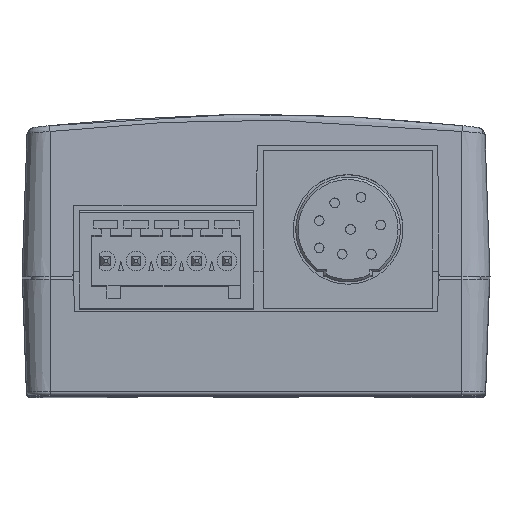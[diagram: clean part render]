
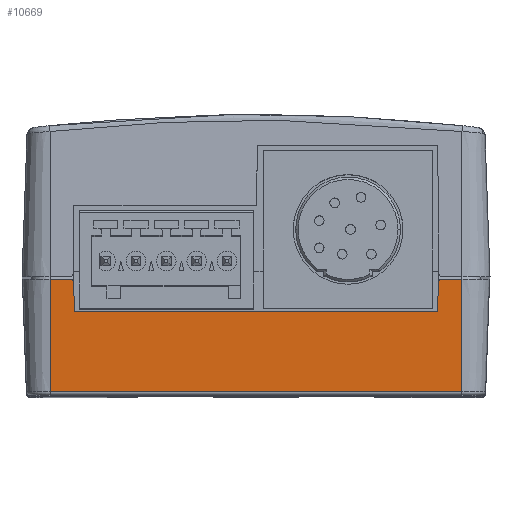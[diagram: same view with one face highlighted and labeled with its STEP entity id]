
A CAD part, top view. The second image highlights one B-rep face of the part: STEP entity #10669.
In plain terms, the highlighted planar face has unit normal (0, -0.035, 0.999) as drawn and (0, -0.035, -0.999) by its records, which use the part's own axes.
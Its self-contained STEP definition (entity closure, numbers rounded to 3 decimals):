
#1119 = EDGE_CURVE ( 'NONE', #12969, #44222, #34405, .T. ) ;
#1789 = CARTESIAN_POINT ( 'NONE',  ( -17., -0.6, -49.979 ) ) ;
#2781 = CARTESIAN_POINT ( 'NONE',  ( -17., 0., -50. ) ) ;
#4231 = VERTEX_POINT ( 'NONE', #21489 ) ;
#4870 = ORIENTED_EDGE ( 'NONE', *, *, #14160, .F. ) ;
#5945 = DIRECTION ( 'NONE',  ( -1., 0., 0. ) ) ;
#6438 = CARTESIAN_POINT ( 'NONE',  ( 0., -0.6, -49.979 ) ) ;
#7473 = LINE ( 'NONE', #31027, #9142 ) ;
#7573 = CARTESIAN_POINT ( 'NONE',  ( 15.042, -0.895, -49.969 ) ) ;
#7917 = LINE ( 'NONE', #6438, #48975 ) ;
#7971 = EDGE_CURVE ( 'NONE', #58150, #4231, #40866, .T. ) ;
#8199 = ORIENTED_EDGE ( 'NONE', *, *, #25283, .T. ) ;
#8372 = CARTESIAN_POINT ( 'NONE',  ( -15., -3.3, -49.885 ) ) ;
#8710 = VECTOR ( 'NONE', #55628, 1000. ) ;
#9142 = VECTOR ( 'NONE', #26318, 1000. ) ;
#9633 = VERTEX_POINT ( 'NONE', #7573 ) ;
#10669 = ADVANCED_FACE ( 'NONE', ( #40901 ), #27642, .T. ) ;
#11183 = LINE ( 'NONE', #25786, #22124 ) ;
#11366 = CARTESIAN_POINT ( 'NONE',  ( -15.045, -0.721, -49.975 ) ) ;
#12795 = ORIENTED_EDGE ( 'NONE', *, *, #39988, .F. ) ;
#12969 = VERTEX_POINT ( 'NONE', #32125 ) ;
#12974 = LINE ( 'NONE', #34595, #26414 ) ;
#14160 = EDGE_CURVE ( 'NONE', #67764, #19177, #52510, .T. ) ;
#15240 = ORIENTED_EDGE ( 'NONE', *, *, #65500, .T. ) ;
#16017 = VECTOR ( 'NONE', #51021, 1000. ) ;
#17481 = ORIENTED_EDGE ( 'NONE', *, *, #67395, .T. ) ;
#18217 = DIRECTION ( 'NONE',  ( 0., -0.999, 0.035 ) ) ;
#18967 = LINE ( 'NONE', #8372, #36596 ) ;
#19177 = VERTEX_POINT ( 'NONE', #47198 ) ;
#19591 = ORIENTED_EDGE ( 'NONE', *, *, #7971, .T. ) ;
#19837 = VERTEX_POINT ( 'NONE', #55321 ) ;
#21489 = CARTESIAN_POINT ( 'NONE',  ( -15.042, -0.895, -49.969 ) ) ;
#22124 = VECTOR ( 'NONE', #68060, 1000. ) ;
#22946 = CARTESIAN_POINT ( 'NONE',  ( -17., -9.91, -49.654 ) ) ;
#24142 = EDGE_CURVE ( 'NONE', #19837, #12969, #40558, .T. ) ;
#25283 = EDGE_CURVE ( 'NONE', #30985, #9633, #11183, .T. ) ;
#25786 = CARTESIAN_POINT ( 'NONE',  ( 15., -3.296, -49.885 ) ) ;
#26125 = CARTESIAN_POINT ( 'NONE',  ( -15.342, -0.6, -49.979 ) ) ;
#26318 = DIRECTION ( 'NONE',  ( -0.017, 0.999, -0.035 ) ) ;
#26414 = VECTOR ( 'NONE', #18217, 1000. ) ;
#26754 = ORIENTED_EDGE ( 'NONE', *, *, #39496, .T. ) ;
#27642 = PLANE ( 'NONE',  #34207 ) ;
#28038 = EDGE_CURVE ( 'NONE', #44933, #4231, #7473, .T. ) ;
#28935 = CARTESIAN_POINT ( 'NONE',  ( 15., -3.3, -49.885 ) ) ;
#30985 = VERTEX_POINT ( 'NONE', #28935 ) ;
#31027 = CARTESIAN_POINT ( 'NONE',  ( -15.053, -0.262, -49.991 ) ) ;
#32125 = CARTESIAN_POINT ( 'NONE',  ( -17., -9.91, -49.654 ) ) ;
#32547 = DIRECTION ( 'NONE',  ( 0., 0.999, -0.035 ) ) ;
#33041 = EDGE_LOOP ( 'NONE', ( #26754, #46017, #44688, #12795, #19591, #54899, #15240, #8199, #17481, #4870 ) ) ;
#33556 = CARTESIAN_POINT ( 'NONE',  ( 15.169, -0.6, -49.979 ) ) ;
#33779 = CARTESIAN_POINT ( 'NONE',  ( 15.042, -0.895, -49.969 ) ) ;
#34207 = AXIS2_PLACEMENT_3D ( 'NONE', #54727, #64989, #32547 ) ;
#34243 = CARTESIAN_POINT ( 'NONE',  ( 15.342, -0.6, -49.979 ) ) ;
#34405 = LINE ( 'NONE', #2781, #16017 ) ;
#34595 = CARTESIAN_POINT ( 'NONE',  ( 17., 0., -50. ) ) ;
#34938 = VECTOR ( 'NONE', #5945, 1000. ) ;
#36596 = VECTOR ( 'NONE', #51206, 1000. ) ;
#39144 = CARTESIAN_POINT ( 'NONE',  ( 15.045, -0.721, -49.975 ) ) ;
#39496 = EDGE_CURVE ( 'NONE', #67764, #19837, #12974, .T. ) ;
#39988 = EDGE_CURVE ( 'NONE', #58150, #44222, #7917, .T. ) ;
#40558 = LINE ( 'NONE', #22946, #8710 ) ;
#40866 =( BOUNDED_CURVE ( )  B_SPLINE_CURVE ( 3, ( #26125, #59299, #11366, #48807 ),
 .UNSPECIFIED., .F., .F. ) 
 B_SPLINE_CURVE_WITH_KNOTS ( ( 4, 4 ),
 ( 3.142, 4.695 ),
 .UNSPECIFIED. ) 
 CURVE ( )  GEOMETRIC_REPRESENTATION_ITEM ( )  RATIONAL_B_SPLINE_CURVE ( ( 1., 0.809, 0.809, 1. ) ) 
 REPRESENTATION_ITEM ( '' )  );
#40901 = FACE_OUTER_BOUND ( 'NONE', #33041, .T. ) ;
#44222 = VERTEX_POINT ( 'NONE', #1789 ) ;
#44688 = ORIENTED_EDGE ( 'NONE', *, *, #1119, .T. ) ;
#44933 = VERTEX_POINT ( 'NONE', #53143 ) ;
#46017 = ORIENTED_EDGE ( 'NONE', *, *, #24142, .T. ) ;
#47198 = CARTESIAN_POINT ( 'NONE',  ( 15.342, -0.6, -49.979 ) ) ;
#48807 = CARTESIAN_POINT ( 'NONE',  ( -15.042, -0.895, -49.969 ) ) ;
#48907 = CARTESIAN_POINT ( 'NONE',  ( 17., -0.6, -49.979 ) ) ;
#48975 = VECTOR ( 'NONE', #59783, 1000. ) ;
#51021 = DIRECTION ( 'NONE',  ( 0., 0.999, -0.035 ) ) ;
#51206 = DIRECTION ( 'NONE',  ( 1., 0., 0. ) ) ;
#52342 =( BOUNDED_CURVE ( )  B_SPLINE_CURVE ( 3, ( #33779, #39144, #33556, #34243 ),
 .UNSPECIFIED., .F., .F. ) 
 B_SPLINE_CURVE_WITH_KNOTS ( ( 4, 4 ),
 ( 4.73, 6.283 ),
 .UNSPECIFIED. ) 
 CURVE ( )  GEOMETRIC_REPRESENTATION_ITEM ( )  RATIONAL_B_SPLINE_CURVE ( ( 1., 0.809, 0.809, 1. ) ) 
 REPRESENTATION_ITEM ( '' )  );
#52510 = LINE ( 'NONE', #58354, #34938 ) ;
#53143 = CARTESIAN_POINT ( 'NONE',  ( -15., -3.3, -49.885 ) ) ;
#54727 = CARTESIAN_POINT ( 'NONE',  ( 0., 0., -50. ) ) ;
#54899 = ORIENTED_EDGE ( 'NONE', *, *, #28038, .F. ) ;
#55321 = CARTESIAN_POINT ( 'NONE',  ( 17., -9.91, -49.654 ) ) ;
#55628 = DIRECTION ( 'NONE',  ( -1., 0., 0. ) ) ;
#56630 = CARTESIAN_POINT ( 'NONE',  ( -15.342, -0.6, -49.979 ) ) ;
#58150 = VERTEX_POINT ( 'NONE', #56630 ) ;
#58354 = CARTESIAN_POINT ( 'NONE',  ( 0., -0.6, -49.979 ) ) ;
#59299 = CARTESIAN_POINT ( 'NONE',  ( -15.169, -0.6, -49.979 ) ) ;
#59783 = DIRECTION ( 'NONE',  ( -1., 0., 0. ) ) ;
#64989 = DIRECTION ( 'NONE',  ( 0., -0.035, -0.999 ) ) ;
#65500 = EDGE_CURVE ( 'NONE', #44933, #30985, #18967, .T. ) ;
#67395 = EDGE_CURVE ( 'NONE', #9633, #19177, #52342, .T. ) ;
#67764 = VERTEX_POINT ( 'NONE', #48907 ) ;
#68060 = DIRECTION ( 'NONE',  ( 0.017, 0.999, -0.035 ) ) ;
